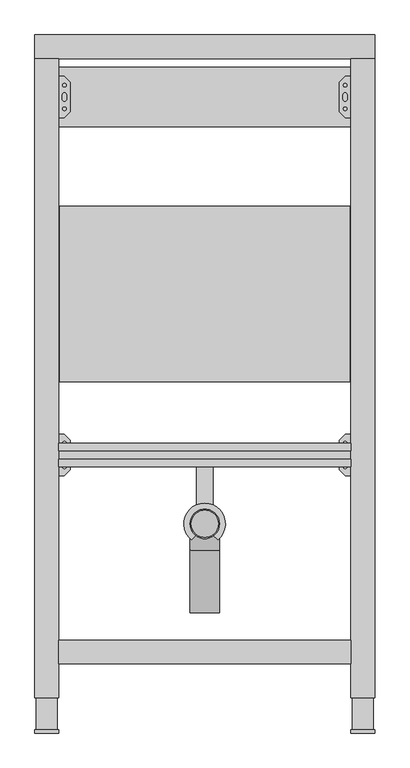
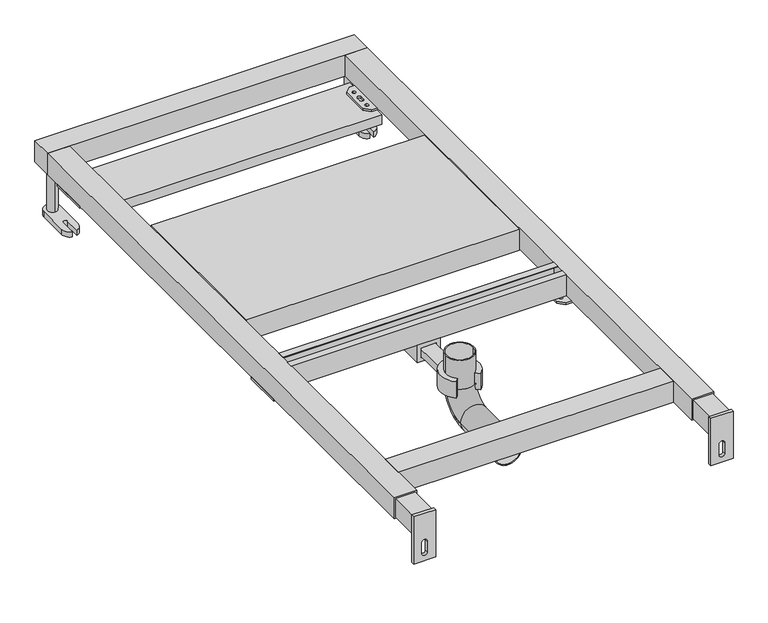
"""IFC4 building model written with IfcOpenShell, lengths in millimetres: sanitary terminal geometry, RSen_74_PF_FB_built in element slop sink_wisa : sink_wisa_built in element slop sink."""

from ifc_helpers import new_model, si_unit, point, frame, frame_2d, origin, origin_with_axes, place, context, project, spatial, polyline, circle_curve, ellipse_curve, trimmed, segment, composite_curve, outline, extrude, source, transform, mapped, element, save
from ifc_brep_helpers import plane_surface, cylinder_surface, revolved_surface, advanced_brep


def sanitary_terminal_ed818e2e(model_context):
    return source(origin(), model_context, "Body", "SolidModel", [
        extrude(outline(polyline([(245.5, 890.0), (245.5, 594.0), (-245.5, 594.0), (-245.5, 890.0), (245.5, 890.0)])), frame((0.0, 0.0, 95.0), z_axis=(0.0, 0.0, 1.0), x_axis=(1.0, 0.0, 0.0)), (0.0, 0.0, 1.0), 40.0),
        advanced_brep(
        [(-25.0, 353.6133796, 135.0), (25.0, 353.6133796, 135.0), (-23.0, 353.6133796, 135.0), (23.0, 353.6133796, 135.0), (-25.0, 353.6133796, 80.0), (25.0, 353.6133796, 80.0), (25.0, 308.6133796, 35.0), (-25.0, 308.6133796, 35.0), (-25.0, 203.6133796, 35.0), (25.0, 203.6133796, 35.0), (-23.0, 203.6133796, 35.0), (23.0, 203.6133796, 35.0), (-23.0, 353.6133796, 80.0), (23.0, 353.6133796, 80.0), (23.0, 308.6133796, 35.0), (-23.0, 308.6133796, 35.0)],
        [
            (0, 1, circle_curve(frame((0.0, 353.6133796, 135.0), z_axis=(0.0, 0.0, 1.0), x_axis=(1.0, 0.0, 0.0)), 25.0)),
            (1, 0, circle_curve(frame((0.0, 353.6133796, 135.0), z_axis=(0.0, 0.0, 1.0), x_axis=(1.0, 0.0, 0.0)), 25.0)),
            (2, 3, circle_curve(frame((0.0, 353.6133796, 135.0), z_axis=(0.0, 0.0, -1.0), x_axis=(1.0, 0.0, 0.0)), 23.0)),
            (3, 2, circle_curve(frame((0.0, 353.6133796, 135.0), z_axis=(0.0, 0.0, -1.0), x_axis=(1.0, 0.0, 0.0)), 23.0)),
            (0, 4),
            (4, 5, circle_curve(frame((0.0, 353.6133796, 80.0), z_axis=(0.0, 0.0, 1.0), x_axis=(1.0, 0.0, 0.0)), 25.0)),
            (5, 1),
            (5, 4, circle_curve(frame((0.0, 353.6133796, 80.0), z_axis=(0.0, 0.0, 1.0), x_axis=(1.0, 0.0, 0.0)), 25.0)),
            (6, 5, circle_curve(frame((25.0, 308.6133796, 80.0), z_axis=(1.0, 0.0, 0.0), x_axis=(0.0, 1.0, 0.0)), 45.0)),
            (4, 7, circle_curve(frame((-25.0, 308.6133796, 80.0), z_axis=(-1.0, 0.0, 0.0), x_axis=(0.0, 1.0, 0.0)), 45.0)),
            (7, 6, circle_curve(frame((0.0, 308.6133796, 35.0), z_axis=(0.0, 1.0, 0.0), x_axis=(1.0, 0.0, 0.0)), 25.0)),
            (6, 7, circle_curve(frame((0.0, 308.6133796, 35.0), z_axis=(0.0, 1.0, 0.0), x_axis=(1.0, 0.0, 0.0)), 25.0)),
            (8, 9, circle_curve(frame((0.0, 203.6133796, 35.0), z_axis=(0.0, -1.0, 0.0), x_axis=(1.0, 0.0, 0.0)), 25.0)),
            (9, 8, circle_curve(frame((0.0, 203.6133796, 35.0), z_axis=(0.0, -1.0, 0.0), x_axis=(1.0, 0.0, 0.0)), 25.0)),
            (10, 11, circle_curve(frame((0.0, 203.6133796, 35.0), z_axis=(0.0, 1.0, 0.0), x_axis=(1.0, 0.0, 0.0)), 23.0)),
            (11, 10, circle_curve(frame((0.0, 203.6133796, 35.0), z_axis=(0.0, 1.0, 0.0), x_axis=(1.0, 0.0, 0.0)), 23.0)),
            (7, 8),
            (9, 6),
            (2, 12),
            (12, 13, circle_curve(frame((0.0, 353.6133796, 80.0), z_axis=(0.0, 0.0, -1.0), x_axis=(1.0, 0.0, 0.0)), 23.0)),
            (13, 3),
            (13, 12, circle_curve(frame((0.0, 353.6133796, 80.0), z_axis=(0.0, 0.0, -1.0), x_axis=(1.0, 0.0, 0.0)), 23.0)),
            (14, 13, circle_curve(frame((23.0, 308.6133796, 80.0), z_axis=(1.0, 0.0, 0.0), x_axis=(0.0, 1.0, 0.0)), 45.0)),
            (12, 15, circle_curve(frame((-23.0, 308.6133796, 80.0), z_axis=(-1.0, 0.0, 0.0), x_axis=(0.0, 1.0, 0.0)), 45.0)),
            (15, 14, circle_curve(frame((0.0, 308.6133796, 35.0), z_axis=(0.0, -1.0, 0.0), x_axis=(1.0, 0.0, 0.0)), 23.0)),
            (14, 15, circle_curve(frame((0.0, 308.6133796, 35.0), z_axis=(0.0, -1.0, 0.0), x_axis=(1.0, 0.0, 0.0)), 23.0)),
            (15, 10),
            (11, 14),
        ],
        [
            plane_surface(frame((0.0, 353.6133796, 135.0), z_axis=(0.0, 0.0, 1.0), x_axis=(1.0, 0.0, 0.0))),
            cylinder_surface(frame((0.0, 353.6133796, 135.0), z_axis=(0.0, 0.0, 1.0), x_axis=(1.0, 0.0, 0.0)), 25.0),
            revolved_surface(trimmed(ellipse_curve(frame((0.0, 353.6133796, 80.0), z_axis=(0.0, 0.0, 1.0), x_axis=(1.0, 0.0, 0.0)), 25.0, 25.0), [point((-25.0, 353.6133796, 80.0))], [point((25.0, 353.6133796, 80.0))], True, "CARTESIAN"), (0.0, 308.6133796, 80.0), (-1.0, 0.0, 0.0)),
            revolved_surface(trimmed(ellipse_curve(frame((0.0, 353.6133796, 80.0), z_axis=(0.0, 0.0, 1.0), x_axis=(1.0, 0.0, 0.0)), 25.0, 25.0), [point((25.0, 353.6133796, 80.0))], [point((-25.0, 353.6133796, 80.0))], True, "CARTESIAN"), (0.0, 308.6133796, 80.0), (-1.0, 0.0, 0.0)),
            plane_surface(frame((0.0, 203.6133796, 35.0), z_axis=(0.0, -1.0, 0.0), x_axis=(1.0, 0.0, 0.0))),
            cylinder_surface(frame((0.0, 308.6133796, 35.0), z_axis=(0.0, 1.0, 0.0), x_axis=(1.0, 0.0, 0.0)), 25.0),
            revolved_surface(polyline([(23.0, 353.6133796, 80.0), (23.0, 353.6133796, 135.0)]), (0.0, 353.6133796, 135.0), (0.0, 0.0, -1.0)),
            revolved_surface(trimmed(ellipse_curve(frame((0.0, 353.6133796, 80.0), z_axis=(0.0, 0.0, -1.0), x_axis=(1.0, 0.0, 0.0)), 23.0, 23.0), [point((-23.0, 353.6133796, 80.0))], [point((23.0, 353.6133796, 80.0))], True, "CARTESIAN"), (0.0, 308.6133796, 80.0), (-1.0, 0.0, 0.0)),
            revolved_surface(trimmed(ellipse_curve(frame((0.0, 353.6133796, 80.0), z_axis=(0.0, 0.0, -1.0), x_axis=(1.0, 0.0, 0.0)), 23.0, 23.0), [point((23.0, 353.6133796, 80.0))], [point((-23.0, 353.6133796, 80.0))], True, "CARTESIAN"), (0.0, 308.6133796, 80.0), (-1.0, 0.0, 0.0)),
            revolved_surface(polyline([(23.0, 203.6133796, 35.0), (23.0, 308.6133796, 35.0)]), (0.0, 308.6133796, 35.0), (0.0, -1.0, 0.0)),
        ],
        [
            (0, [[1, 2], [3, 4]]),
            (1, [[-1, 5, 6, 7]]),
            (1, [[-2, -7, 8, -5]]),
            (2, [[9, -6, 10, 11]]),
            (3, [[-10, -8, -9, 12]]),
            (4, [[13, 14], [15, 16]]),
            (5, [[-11, 17, -14, 18]]),
            (5, [[-12, -18, -13, -17]]),
            (6, [[-3, 19, 20, 21]]),
            (6, [[-4, -21, 22, -19]]),
            (7, [[23, -20, 24, 25]]),
            (8, [[-24, -22, -23, 26]]),
            (9, [[-25, 27, -16, 28]]),
            (9, [[-26, -28, -15, -27]]),
        ],
    ),
        extrude(outline(composite_curve([segment(trimmed(circle_curve(frame_2d((-0.1785173, 353.614017)), 25.0), [point((14.8942159, 333.6687741))], [point((-15.2512505, 333.6687741))], True, "CARTESIAN"), True, "CONTINUOUS"), segment(polyline([(-15.2512505, 333.6687741), (-22.3707959, 326.5492287)]), True, "CONTINUOUS"), segment(trimmed(circle_curve(frame_2d((-0.1785173, 353.614017)), 35.0), [point((-22.3707959, 326.5492287))], [point((-0.1785173, 388.614017))], False, "CARTESIAN"), True, "CONTINUOUS"), segment(trimmed(circle_curve(frame_2d((-0.1785173, 353.614017)), 35.0), [point((-0.1785173, 388.614017))], [point((22.0137614, 326.5492287))], False, "CARTESIAN"), True, "CONTINUOUS"), segment(polyline([(22.0137614, 326.5492287), (14.8942159, 333.6687741)]), True, "CONTINUOUS")], self_intersect=False)), frame((0.0, 0.0, 70.0), z_axis=(0.0, 0.0, 1.0), x_axis=(1.0, 0.0, 0.0)), (0.0, 0.0, 1.0), 31.0),
        extrude(outline(polyline([(-13.9285173, 490.0), (13.5714827, 490.0), (13.5714827, 385.8), (-13.9285173, 385.8), (-13.9285173, 490.0)])), frame((0.0, 0.0, 71.5), z_axis=(0.0, 0.0, 1.0), x_axis=(1.0, 0.0, 0.0)), (0.0, 0.0, 1.0), 13.5),
        extrude(outline(polyline([(95.0, 20.75), (95.0, -20.75), (61.5, -20.75), (61.5, 20.75), (95.0, 20.75)]), holes=[polyline([(87.5, 13.5714827), (69.0, 13.5714827), (69.0, -13.9285173), (87.5, -13.9285173), (87.5, 13.5714827)])]), frame((0.0, 450.0, 0.0), z_axis=(0.0, 1.0, 0.0), x_axis=(0.0, 0.0, 1.0)), (0.0, 0.0, 1.0), 40.0),
        extrude(outline(polyline([(247.5, 1125.0), (247.5, 1025.0), (-247.5, 1025.0), (-247.5, 1125.0), (247.5, 1125.0)])), frame((0.0, 0.0, 73.0), z_axis=(0.0, 0.0, 1.0), x_axis=(1.0, 0.0, 0.0)), (0.0, 0.0, 1.0), 18.0),
        extrude(outline(polyline([(450.0, 135.0), (462.4845167, 135.0), (462.4845167, 133.5), (451.5, 133.5), (451.5, 96.5), (488.5, 96.5), (488.5, 133.5), (477.5154833, 133.5), (477.5154833, 135.0), (490.0, 135.0), (490.0, 95.0), (450.0, 95.0), (450.0, 135.0)])), frame((-247.5, 0.0, 0.0), z_axis=(1.0, 0.0, 0.0), x_axis=(0.0, 1.0, 0.0)), (0.0, 0.0, 1.0), 495.0),
        extrude(outline(polyline([(237.5, 1040.0), (227.5, 1050.0), (227.5, 1100.0), (237.5, 1110.0), (287.5, 1110.0), (287.5, 1040.0), (237.5, 1040.0)]), holes=[composite_curve([segment(trimmed(circle_curve(frame_2d((272.5, 1075.0)), 4.5), [point((272.5, 1070.5))], [point((272.5, 1079.5))], True, "CARTESIAN"), True, "CONTINUOUS"), segment(trimmed(circle_curve(frame_2d((272.5, 1075.0)), 4.5), [point((272.5, 1079.5))], [point((272.5, 1070.5))], True, "CARTESIAN"), True, "CONTINUOUS")], self_intersect=False), composite_curve([segment(trimmed(circle_curve(frame_2d((272.5, 1095.0)), 4.5), [point((272.5, 1090.5))], [point((272.5, 1099.5))], True, "CARTESIAN"), True, "CONTINUOUS"), segment(trimmed(circle_curve(frame_2d((272.5, 1095.0)), 4.5), [point((272.5, 1099.5))], [point((272.5, 1090.5))], True, "CARTESIAN"), True, "CONTINUOUS")], self_intersect=False), composite_curve([segment(trimmed(circle_curve(frame_2d((272.5, 1055.0)), 4.5), [point((272.5, 1050.5))], [point((272.5, 1059.5))], True, "CARTESIAN"), True, "CONTINUOUS"), segment(trimmed(circle_curve(frame_2d((272.5, 1055.0)), 4.5), [point((272.5, 1059.5))], [point((272.5, 1050.5))], True, "CARTESIAN"), True, "CONTINUOUS")], self_intersect=False), composite_curve([segment(trimmed(circle_curve(frame_2d((237.5, 1095.0)), 2.9795218), [point((237.5, 1092.0204782))], [point((237.5, 1097.9795218))], True, "CARTESIAN"), True, "CONTINUOUS"), segment(trimmed(circle_curve(frame_2d((237.5, 1095.0)), 2.9795218), [point((237.5, 1097.9795218))], [point((237.5, 1092.0204782))], True, "CARTESIAN"), True, "CONTINUOUS")], self_intersect=False), composite_curve([segment(trimmed(circle_curve(frame_2d((237.5, 1055.0)), 2.9795218), [point((237.5, 1052.0204782))], [point((237.5, 1057.9795218))], True, "CARTESIAN"), True, "CONTINUOUS"), segment(trimmed(circle_curve(frame_2d((237.5, 1055.0)), 2.9795218), [point((237.5, 1057.9795218))], [point((237.5, 1052.0204782))], True, "CARTESIAN"), True, "CONTINUOUS")], self_intersect=False), composite_curve([segment(trimmed(circle_curve(frame_2d((237.5, 1078.5)), 3.5), [point((241.0, 1078.5))], [point((234.0, 1078.5))], True, "CARTESIAN"), True, "CONTINUOUS"), segment(polyline([(234.0, 1078.5), (234.0, 1071.5)]), True, "CONTINUOUS"), segment(trimmed(circle_curve(frame_2d((237.5, 1071.5)), 3.5), [point((234.0, 1071.5))], [point((241.0, 1071.5))], True, "CARTESIAN"), True, "CONTINUOUS"), segment(polyline([(241.0, 1071.5), (241.0, 1078.5)]), True, "CONTINUOUS")], self_intersect=False)]), frame((0.0, 0.0, 91.0), z_axis=(0.0, 0.0, 1.0), x_axis=(1.0, 0.0, 0.0)), (0.0, 0.0, 1.0), 4.0),
        extrude(outline(polyline([(-237.5, 1040.0), (-287.5, 1040.0), (-287.5, 1110.0), (-237.5, 1110.0), (-227.5, 1100.0), (-227.5, 1050.0), (-237.5, 1040.0)]), holes=[composite_curve([segment(trimmed(circle_curve(frame_2d((-272.5, 1075.0)), 4.5), [point((-272.5, 1070.5))], [point((-272.5, 1079.5))], True, "CARTESIAN"), True, "CONTINUOUS"), segment(trimmed(circle_curve(frame_2d((-272.5, 1075.0)), 4.5), [point((-272.5, 1079.5))], [point((-272.5, 1070.5))], True, "CARTESIAN"), True, "CONTINUOUS")], self_intersect=False), composite_curve([segment(trimmed(circle_curve(frame_2d((-272.5, 1095.0)), 4.5), [point((-272.5, 1090.5))], [point((-272.5, 1099.5))], True, "CARTESIAN"), True, "CONTINUOUS"), segment(trimmed(circle_curve(frame_2d((-272.5, 1095.0)), 4.5), [point((-272.5, 1099.5))], [point((-272.5, 1090.5))], True, "CARTESIAN"), True, "CONTINUOUS")], self_intersect=False), composite_curve([segment(trimmed(circle_curve(frame_2d((-272.5, 1055.0)), 4.5), [point((-272.5, 1050.5))], [point((-272.5, 1059.5))], True, "CARTESIAN"), True, "CONTINUOUS"), segment(trimmed(circle_curve(frame_2d((-272.5, 1055.0)), 4.5), [point((-272.5, 1059.5))], [point((-272.5, 1050.5))], True, "CARTESIAN"), True, "CONTINUOUS")], self_intersect=False), composite_curve([segment(trimmed(circle_curve(frame_2d((-237.5, 1095.0)), 2.9795218), [point((-237.5, 1092.0204782))], [point((-237.5, 1097.9795218))], True, "CARTESIAN"), True, "CONTINUOUS"), segment(trimmed(circle_curve(frame_2d((-237.5, 1095.0)), 2.9795218), [point((-237.5, 1097.9795218))], [point((-237.5, 1092.0204782))], True, "CARTESIAN"), True, "CONTINUOUS")], self_intersect=False), composite_curve([segment(trimmed(circle_curve(frame_2d((-237.5, 1055.0)), 2.9795218), [point((-237.5, 1052.0204782))], [point((-237.5, 1057.9795218))], True, "CARTESIAN"), True, "CONTINUOUS"), segment(trimmed(circle_curve(frame_2d((-237.5, 1055.0)), 2.9795218), [point((-237.5, 1057.9795218))], [point((-237.5, 1052.0204782))], True, "CARTESIAN"), True, "CONTINUOUS")], self_intersect=False), composite_curve([segment(polyline([(-241.0, 1078.5), (-241.0, 1071.5)]), True, "CONTINUOUS"), segment(trimmed(circle_curve(frame_2d((-237.5, 1071.5)), 3.5), [point((-241.0, 1071.5))], [point((-234.0, 1071.5))], True, "CARTESIAN"), True, "CONTINUOUS"), segment(polyline([(-234.0, 1071.5), (-234.0, 1078.5)]), True, "CONTINUOUS"), segment(trimmed(circle_curve(frame_2d((-237.5, 1078.5)), 3.5), [point((-234.0, 1078.5))], [point((-241.0, 1078.5))], True, "CARTESIAN"), True, "CONTINUOUS")], self_intersect=False)]), frame((0.0, 0.0, 91.0), z_axis=(0.0, 0.0, 1.0), x_axis=(1.0, 0.0, 0.0)), (0.0, 0.0, 1.0), 4.0),
        extrude(outline(polyline([(237.5, 435.0), (227.5, 445.0), (227.5, 495.0), (237.5, 505.0), (287.5, 505.0), (287.5, 435.0), (237.5, 435.0)]), holes=[composite_curve([segment(trimmed(circle_curve(frame_2d((272.5, 470.0)), 4.5), [point((272.5, 465.5))], [point((272.5, 474.5))], True, "CARTESIAN"), True, "CONTINUOUS"), segment(trimmed(circle_curve(frame_2d((272.5, 470.0)), 4.5), [point((272.5, 474.5))], [point((272.5, 465.5))], True, "CARTESIAN"), True, "CONTINUOUS")], self_intersect=False), composite_curve([segment(trimmed(circle_curve(frame_2d((272.5, 490.0)), 4.5), [point((272.5, 485.5))], [point((272.5, 494.5))], True, "CARTESIAN"), True, "CONTINUOUS"), segment(trimmed(circle_curve(frame_2d((272.5, 490.0)), 4.5), [point((272.5, 494.5))], [point((272.5, 485.5))], True, "CARTESIAN"), True, "CONTINUOUS")], self_intersect=False), composite_curve([segment(trimmed(circle_curve(frame_2d((272.5, 450.0)), 4.5), [point((272.5, 445.5))], [point((272.5, 454.5))], True, "CARTESIAN"), True, "CONTINUOUS"), segment(trimmed(circle_curve(frame_2d((272.5, 450.0)), 4.5), [point((272.5, 454.5))], [point((272.5, 445.5))], True, "CARTESIAN"), True, "CONTINUOUS")], self_intersect=False), composite_curve([segment(trimmed(circle_curve(frame_2d((237.5, 490.0)), 2.9795218), [point((237.5, 487.0204782))], [point((237.5, 492.9795218))], True, "CARTESIAN"), True, "CONTINUOUS"), segment(trimmed(circle_curve(frame_2d((237.5, 490.0)), 2.9795218), [point((237.5, 492.9795218))], [point((237.5, 487.0204782))], True, "CARTESIAN"), True, "CONTINUOUS")], self_intersect=False), composite_curve([segment(trimmed(circle_curve(frame_2d((237.5, 450.0)), 2.9795218), [point((237.5, 447.0204782))], [point((237.5, 452.9795218))], True, "CARTESIAN"), True, "CONTINUOUS"), segment(trimmed(circle_curve(frame_2d((237.5, 450.0)), 2.9795218), [point((237.5, 452.9795218))], [point((237.5, 447.0204782))], True, "CARTESIAN"), True, "CONTINUOUS")], self_intersect=False), composite_curve([segment(trimmed(circle_curve(frame_2d((237.5, 473.5)), 3.5), [point((241.0, 473.5))], [point((234.0, 473.5))], True, "CARTESIAN"), True, "CONTINUOUS"), segment(polyline([(234.0, 473.5), (234.0, 466.5)]), True, "CONTINUOUS"), segment(trimmed(circle_curve(frame_2d((237.5, 466.5)), 3.5), [point((234.0, 466.5))], [point((241.0, 466.5))], True, "CARTESIAN"), True, "CONTINUOUS"), segment(polyline([(241.0, 466.5), (241.0, 473.5)]), True, "CONTINUOUS")], self_intersect=False)]), frame((0.0, 0.0, 91.0), z_axis=(0.0, 0.0, 1.0), x_axis=(1.0, 0.0, 0.0)), (0.0, 0.0, 1.0), 4.0),
        extrude(outline(polyline([(-237.5, 435.0), (-287.5, 435.0), (-287.5, 505.0), (-237.5, 505.0), (-227.5, 495.0), (-227.5, 445.0), (-237.5, 435.0)]), holes=[composite_curve([segment(trimmed(circle_curve(frame_2d((-272.5, 470.0)), 4.5), [point((-272.5, 465.5))], [point((-272.5, 474.5))], True, "CARTESIAN"), True, "CONTINUOUS"), segment(trimmed(circle_curve(frame_2d((-272.5, 470.0)), 4.5), [point((-272.5, 474.5))], [point((-272.5, 465.5))], True, "CARTESIAN"), True, "CONTINUOUS")], self_intersect=False), composite_curve([segment(trimmed(circle_curve(frame_2d((-272.5, 490.0)), 4.5), [point((-272.5, 485.5))], [point((-272.5, 494.5))], True, "CARTESIAN"), True, "CONTINUOUS"), segment(trimmed(circle_curve(frame_2d((-272.5, 490.0)), 4.5), [point((-272.5, 494.5))], [point((-272.5, 485.5))], True, "CARTESIAN"), True, "CONTINUOUS")], self_intersect=False), composite_curve([segment(trimmed(circle_curve(frame_2d((-272.5, 450.0)), 4.5), [point((-272.5, 445.5))], [point((-272.5, 454.5))], True, "CARTESIAN"), True, "CONTINUOUS"), segment(trimmed(circle_curve(frame_2d((-272.5, 450.0)), 4.5), [point((-272.5, 454.5))], [point((-272.5, 445.5))], True, "CARTESIAN"), True, "CONTINUOUS")], self_intersect=False), composite_curve([segment(trimmed(circle_curve(frame_2d((-237.5, 490.0)), 2.9795218), [point((-237.5, 487.0204782))], [point((-237.5, 492.9795218))], True, "CARTESIAN"), True, "CONTINUOUS"), segment(trimmed(circle_curve(frame_2d((-237.5, 490.0)), 2.9795218), [point((-237.5, 492.9795218))], [point((-237.5, 487.0204782))], True, "CARTESIAN"), True, "CONTINUOUS")], self_intersect=False), composite_curve([segment(trimmed(circle_curve(frame_2d((-237.5, 450.0)), 2.9795218), [point((-237.5, 447.0204782))], [point((-237.5, 452.9795218))], True, "CARTESIAN"), True, "CONTINUOUS"), segment(trimmed(circle_curve(frame_2d((-237.5, 450.0)), 2.9795218), [point((-237.5, 452.9795218))], [point((-237.5, 447.0204782))], True, "CARTESIAN"), True, "CONTINUOUS")], self_intersect=False), composite_curve([segment(polyline([(-241.0, 473.5), (-241.0, 466.5)]), True, "CONTINUOUS"), segment(trimmed(circle_curve(frame_2d((-237.5, 466.5)), 3.5), [point((-241.0, 466.5))], [point((-234.0, 466.5))], True, "CARTESIAN"), True, "CONTINUOUS"), segment(polyline([(-234.0, 466.5), (-234.0, 473.5)]), True, "CONTINUOUS"), segment(trimmed(circle_curve(frame_2d((-237.5, 473.5)), 3.5), [point((-234.0, 473.5))], [point((-241.0, 473.5))], True, "CARTESIAN"), True, "CONTINUOUS")], self_intersect=False)]), frame((0.0, 0.0, 91.0), z_axis=(0.0, 0.0, 1.0), x_axis=(1.0, 0.0, 0.0)), (0.0, 0.0, 1.0), 4.0),
        extrude(outline(composite_curve([segment(trimmed(circle_curve(frame_2d((-267.5, 1160.0)), 8.75), [point((-267.5, 1151.25))], [point((-267.5, 1168.75))], False, "CARTESIAN"), True, "CONTINUOUS"), segment(trimmed(circle_curve(frame_2d((-267.5, 1160.0)), 8.75), [point((-267.5, 1168.75))], [point((-267.5, 1151.25))], False, "CARTESIAN"), True, "CONTINUOUS")], self_intersect=False)), frame((0.0, 0.0, 10.0), z_axis=(0.0, 0.0, 1.0), x_axis=(1.0, 0.0, 0.0)), (0.0, 0.0, 1.0), 85.0),
        extrude(outline(composite_curve([segment(trimmed(circle_curve(frame_2d((267.5, 1160.0)), 8.75), [point((267.5, 1151.25))], [point((267.5, 1168.75))], False, "CARTESIAN"), True, "CONTINUOUS"), segment(trimmed(circle_curve(frame_2d((267.5, 1160.0)), 8.75), [point((267.5, 1168.75))], [point((267.5, 1151.25))], False, "CARTESIAN"), True, "CONTINUOUS")], self_intersect=False)), frame((0.0, 0.0, 10.0), z_axis=(0.0, 0.0, 1.0), x_axis=(1.0, 0.0, 0.0)), (0.0, 0.0, 1.0), 85.0),
        extrude(outline(composite_curve([segment(trimmed(circle_curve(frame_2d((-267.5, 1160.0)), 15.0), [point((-282.5, 1160.0))], [point((-252.5, 1160.0))], False, "CARTESIAN"), True, "CONTINUOUS"), segment(polyline([(-252.5, 1160.0), (-252.5, 1106.0)]), True, "CONTINUOUS"), segment(trimmed(circle_curve(frame_2d((-267.5, 1106.0)), 15.0), [point((-252.5, 1106.0))], [point((-263.5, 1091.5431677))], False, "CARTESIAN"), True, "CONTINUOUS"), segment(polyline([(-263.5, 1091.5431677), (-263.5, 1120.4568323)]), True, "CONTINUOUS"), segment(trimmed(circle_curve(frame_2d((-267.5, 1120.4568323)), 4.0), [point((-263.5, 1120.4568323))], [point((-271.5, 1120.4568323))], True, "CARTESIAN"), True, "CONTINUOUS"), segment(polyline([(-271.5, 1120.4568323), (-271.5, 1091.5431677)]), True, "CONTINUOUS"), segment(trimmed(circle_curve(frame_2d((-267.5, 1106.0)), 15.0), [point((-271.5, 1091.5431677))], [point((-282.5, 1106.0))], False, "CARTESIAN"), True, "CONTINUOUS"), segment(polyline([(-282.5, 1106.0), (-282.5, 1160.0)]), True, "CONTINUOUS")], self_intersect=False)), origin_with_axes(), (0.0, 0.0, 1.0), 10.0),
        extrude(outline(composite_curve([segment(polyline([(282.5, 1160.0), (282.5, 1106.0)]), True, "CONTINUOUS"), segment(trimmed(circle_curve(frame_2d((267.5, 1106.0)), 15.0), [point((282.5, 1106.0))], [point((271.5, 1091.5431677))], False, "CARTESIAN"), True, "CONTINUOUS"), segment(polyline([(271.5, 1091.5431677), (271.5, 1120.4568323)]), True, "CONTINUOUS"), segment(trimmed(circle_curve(frame_2d((267.5, 1120.4568323)), 4.0), [point((271.5, 1120.4568323))], [point((263.5, 1120.4568323))], True, "CARTESIAN"), True, "CONTINUOUS"), segment(polyline([(263.5, 1120.4568323), (263.5, 1091.5431677)]), True, "CONTINUOUS"), segment(trimmed(circle_curve(frame_2d((267.5, 1106.0)), 15.0), [point((263.5, 1091.5431677))], [point((252.5, 1106.0))], False, "CARTESIAN"), True, "CONTINUOUS"), segment(polyline([(252.5, 1106.0), (252.5, 1160.0)]), True, "CONTINUOUS"), segment(trimmed(circle_curve(frame_2d((267.5, 1160.0)), 15.0), [point((252.5, 1160.0))], [point((282.5, 1160.0))], False, "CARTESIAN"), True, "CONTINUOUS")], self_intersect=False)), origin_with_axes(), (0.0, 0.0, 1.0), 10.0),
        extrude(outline(polyline([(-285.0, 549.0), (-250.0, 549.0), (-250.0, 6.0), (-285.0, 6.0), (-285.0, 549.0)])), frame((0.0, 0.0, 97.5), z_axis=(0.0, 0.0, 1.0), x_axis=(1.0, 0.0, 0.0)), (0.0, 0.0, 1.0), 35.0),
        extrude(outline(polyline([(249.9841074, 549.0), (284.9841074, 549.0), (284.9841074, 6.0), (249.9841074, 6.0), (249.9841074, 549.0)])), frame((0.0, 0.0, 97.5), z_axis=(0.0, 0.0, 1.0), x_axis=(1.0, 0.0, 0.0)), (0.0, 0.0, 1.0), 35.0),
        extrude(outline(polyline([(135.0, 287.5), (135.0, 247.5), (45.0, 247.5), (45.0, 287.5), (135.0, 287.5)]), holes=[composite_curve([segment(trimmed(circle_curve(frame_2d((80.0, 267.5)), 5.0), [point((80.0, 262.5))], [point((80.0, 272.5))], True, "CARTESIAN"), True, "CONTINUOUS"), segment(polyline([(80.0, 272.5), (60.0, 272.5)]), True, "CONTINUOUS"), segment(trimmed(circle_curve(frame_2d((60.0, 267.5)), 5.0), [point((60.0, 272.5))], [point((60.0, 262.5))], True, "CARTESIAN"), True, "CONTINUOUS"), segment(polyline([(60.0, 262.5), (80.0, 262.5)]), True, "CONTINUOUS")], self_intersect=False)]), frame((0.0, 0.0, 0.0), z_axis=(0.0, 1.0, 0.0), x_axis=(0.0, 0.0, 1.0)), (0.0, 0.0, 1.0), 6.0),
        extrude(outline(polyline([(135.0, -247.5), (135.0, -287.5), (45.0, -287.5), (45.0, -247.5), (135.0, -247.5)]), holes=[composite_curve([segment(trimmed(circle_curve(frame_2d((80.0, -267.5)), 5.0), [point((80.0, -272.5))], [point((80.0, -262.5))], True, "CARTESIAN"), True, "CONTINUOUS"), segment(polyline([(80.0, -262.5), (60.0, -262.5)]), True, "CONTINUOUS"), segment(trimmed(circle_curve(frame_2d((60.0, -267.5)), 5.0), [point((60.0, -262.5))], [point((60.0, -272.5))], True, "CARTESIAN"), True, "CONTINUOUS"), segment(polyline([(60.0, -272.5), (80.0, -272.5)]), True, "CONTINUOUS")], self_intersect=False)]), frame((0.0, 0.0, 0.0), z_axis=(0.0, 1.0, 0.0), x_axis=(0.0, 0.0, 1.0)), (0.0, 0.0, 1.0), 6.0),
        extrude(outline(polyline([(247.5, 157.0), (247.5, 117.0), (-247.5, 117.0), (-247.5, 157.0), (247.5, 157.0)])), frame((0.0, 0.0, 95.0), z_axis=(0.0, 0.0, 1.0), x_axis=(1.0, 0.0, 0.0)), (0.0, 0.0, 1.0), 40.0),
        extrude(outline(polyline([(-247.5, 60.0), (-287.5, 60.0), (-287.5, 1140.0), (-247.5, 1140.0), (-247.5, 60.0)])), frame((0.0, 0.0, 95.0), z_axis=(0.0, 0.0, 1.0), x_axis=(1.0, 0.0, 0.0)), (0.0, 0.0, 1.0), 40.0),
        extrude(outline(polyline([(287.5, 60.0), (247.5, 60.0), (247.5, 1140.0), (287.5, 1140.0), (287.5, 60.0)])), frame((0.0, 0.0, 95.0), z_axis=(0.0, 0.0, 1.0), x_axis=(1.0, 0.0, 0.0)), (0.0, 0.0, 1.0), 40.0),
        extrude(outline(polyline([(287.5, 1180.0), (287.5, 1140.0), (-287.5, 1140.0), (-287.5, 1180.0), (287.5, 1180.0)])), frame((0.0, 0.0, 95.0), z_axis=(0.0, 0.0, 1.0), x_axis=(1.0, 0.0, 0.0)), (0.0, 0.0, 1.0), 40.0),
    ])


if __name__ == "__main__":
    model = new_model("IFC4")
    model_context = context("Model", 3, world=origin())
    ifc_project = project(units=[si_unit("LENGTHUNIT", "METRE", prefix="MILLI")], contexts=[model_context])
    site = spatial("IfcSite", under=ifc_project)
    building = spatial("IfcBuilding", under=site)
    placement = place(None, origin())
    sanitary_terminal_shape = sanitary_terminal_ed818e2e(model_context)
    element("IfcSanitaryTerminal", 1, ObjectType="RSen_74_PF_FB_built in element slop sink_wisa : sink_wisa_built in element slop sink", at=placement, inside=building, context=model_context, shape_type="MappedRepresentation", body=[
        mapped(sanitary_terminal_shape, transform((0.0, 0.0, 0.0), x_axis=(1.0, 0.0, 0.0), y_axis=(0.0, 1.0, 0.0), z_axis=(0.0, 0.0, 1.0))),
    ])
    save(model, "model.ifc")
